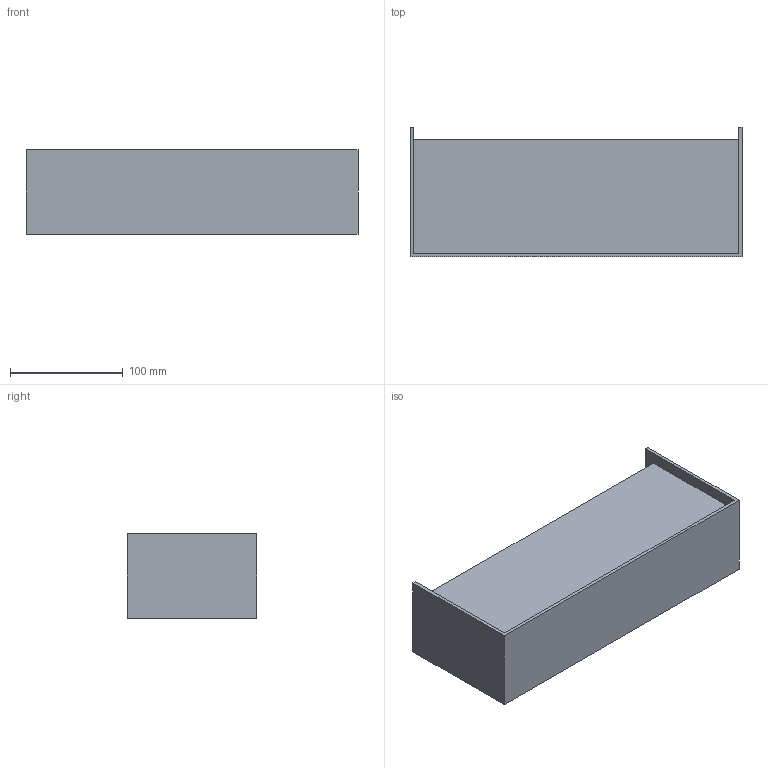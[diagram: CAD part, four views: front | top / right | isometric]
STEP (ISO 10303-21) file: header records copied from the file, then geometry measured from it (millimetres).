
FILE_DESCRIPTION (( 'STEP AP203' ), '1' );
FILE_NAME ('Kinkiet 295mm.STEP', '2020-07-12T21:22:40', ( '' ), ( '' ), 'SwSTEP 2.0', 'SolidWorks 2012', '' );
FILE_SCHEMA (( 'CONFIG_CONTROL_DESIGN' ));
Length unit declared in the file: millimetre
Products named in the file (1): Kinkiet 295mm
Bounding box: 295 x 115 x 75 mm (x, y, z)
Volume: 560203 mm3; surface area: 231330.6 mm2
Topology: 1 solids, 1 shells, 138 faces, 356 edges, 224 vertices
Faces by surface type: plane 80, cylinder 54, bspline 4
Entity records: 4365 total; most frequent: CARTESIAN_POINT 851, DIRECTION 718, ORIENTED_EDGE 712, EDGE_CURVE 356, VECTOR 248, LINE 248, AXIS2_PLACEMENT_3D 235, VERTEX_POINT 224
